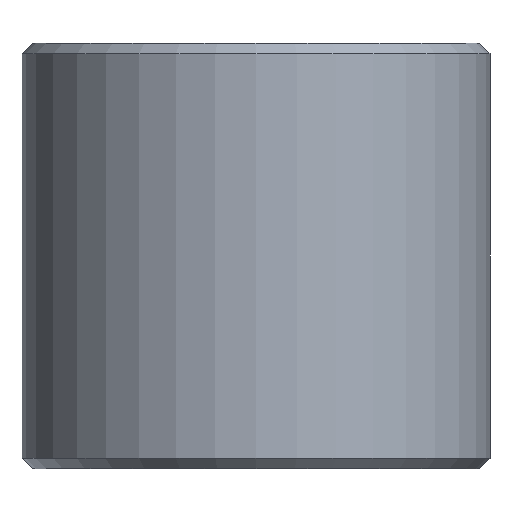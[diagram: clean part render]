
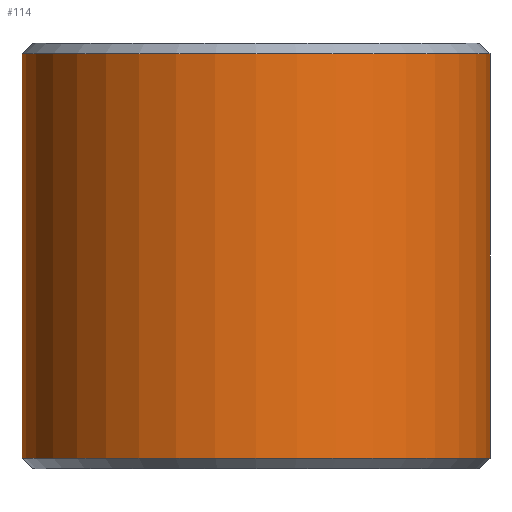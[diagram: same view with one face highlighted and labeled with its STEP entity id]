
A CAD part, front view. The second image highlights one B-rep face of the part: STEP entity #114.
In plain terms, the highlighted cylindrical face has radius 11 mm (diameter 22 mm), a full revolution.
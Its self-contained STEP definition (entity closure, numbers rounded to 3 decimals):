
#19=CYLINDRICAL_SURFACE('',#147,11.);
#22=FACE_OUTER_BOUND('',#30,.T.);
#30=EDGE_LOOP('',(#85,#86,#87,#88));
#40=LINE('',#209,#46);
#46=VECTOR('',#171,11.);
#51=CIRCLE('',#145,11.);
#53=CIRCLE('',#148,11.);
#59=VERTEX_POINT('',#202);
#61=VERTEX_POINT('',#208);
#67=EDGE_CURVE('',#59,#59,#51,.T.);
#70=EDGE_CURVE('',#59,#61,#40,.T.);
#71=EDGE_CURVE('',#61,#61,#53,.T.);
#85=ORIENTED_EDGE('',*,*,#67,.F.);
#86=ORIENTED_EDGE('',*,*,#70,.T.);
#87=ORIENTED_EDGE('',*,*,#71,.F.);
#88=ORIENTED_EDGE('',*,*,#70,.F.);
#114=ADVANCED_FACE('',(#22),#19,.T.);
#145=AXIS2_PLACEMENT_3D('',#203,#164,#165);
#147=AXIS2_PLACEMENT_3D('',#207,#169,#170);
#148=AXIS2_PLACEMENT_3D('',#210,#172,#173);
#164=DIRECTION('center_axis',(0.,0.,1.));
#165=DIRECTION('ref_axis',(-1.,0.,0.));
#169=DIRECTION('center_axis',(0.,0.,1.));
#170=DIRECTION('ref_axis',(-1.,0.,0.));
#171=DIRECTION('',(0.,0.,-1.));
#172=DIRECTION('center_axis',(0.,0.,-1.));
#173=DIRECTION('ref_axis',(-1.,0.,0.));
#202=CARTESIAN_POINT('',(11.,0.,19.5));
#203=CARTESIAN_POINT('Origin',(0.,0.,19.5));
#207=CARTESIAN_POINT('Origin',(0.,0.,0.));
#208=CARTESIAN_POINT('',(11.,0.,0.5));
#209=CARTESIAN_POINT('',(11.,0.,0.));
#210=CARTESIAN_POINT('Origin',(0.,0.,0.5));
